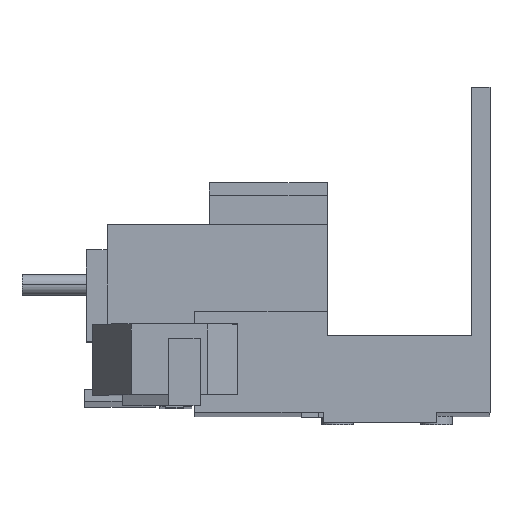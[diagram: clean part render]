
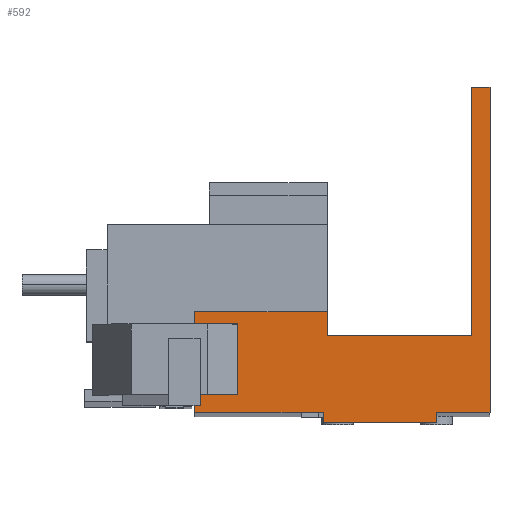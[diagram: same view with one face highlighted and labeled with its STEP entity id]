
A CAD part, front view. The second image highlights one B-rep face of the part: STEP entity #592.
In plain terms, the highlighted planar face has unit normal (0, -1, 0.002).
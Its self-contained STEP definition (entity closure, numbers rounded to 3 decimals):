
#48 = LINE ( 'NONE', #3427, #303 ) ;
#144 = VECTOR ( 'NONE', #3463, 1000. ) ;
#233 = LINE ( 'NONE', #3460, #144 ) ;
#256 = EDGE_LOOP ( 'NONE', ( #3473, #4174, #4127, #4331, #3598, #4145, #4408, #3739, #3999, #3627, #3951, #4155 ) ) ;
#303 = VECTOR ( 'NONE', #3415, 1000. ) ;
#592 = ADVANCED_FACE ( 'NONE', ( #5656 ), #5036, .F. ) ;
#775 = EDGE_CURVE ( 'NONE', #4001, #3832, #48, .T. ) ;
#777 = EDGE_CURVE ( 'NONE', #4156, #4080, #5800, .T. ) ;
#787 = EDGE_CURVE ( 'NONE', #4044, #4156, #233, .T. ) ;
#831 = EDGE_CURVE ( 'NONE', #4061, #3507, #5665, .T. ) ;
#834 = EDGE_CURVE ( 'NONE', #3507, #4044, #5873, .T. ) ;
#835 = EDGE_CURVE ( 'NONE', #3542, #4191, #5649, .T. ) ;
#836 = EDGE_CURVE ( 'NONE', #3744, #3542, #5653, .T. ) ;
#837 = EDGE_CURVE ( 'NONE', #3744, #4030, #5645, .T. ) ;
#1080 = EDGE_CURVE ( 'NONE', #4080, #3965, #4477, .T. ) ;
#1106 = EDGE_CURVE ( 'NONE', #3965, #4191, #4641, .T. ) ;
#1111 = EDGE_CURVE ( 'NONE', #4030, #4001, #4707, .T. ) ;
#1240 = EDGE_CURVE ( 'NONE', #3832, #4061, #3221, .T. ) ;
#1262 = AXIS2_PLACEMENT_3D ( 'NONE', #5029, #5038, #5039 ) ;
#1937 = CARTESIAN_POINT ( 'NONE',  ( -7.5, -33.078, -37.431 ) ) ;
#1938 = CARTESIAN_POINT ( 'NONE',  ( -1.75, -33.053, -25.181 ) ) ;
#1944 = CARTESIAN_POINT ( 'NONE',  ( -2.55, -33.072, -34.474 ) ) ;
#1945 = DIRECTION ( 'NONE',  ( 0., -0.002, -1. ) ) ;
#1949 = CARTESIAN_POINT ( 'NONE',  ( -7.5, -33.078, -37.431 ) ) ;
#1951 = DIRECTION ( 'NONE',  ( -1., 0., 0. ) ) ;
#1952 = CARTESIAN_POINT ( 'NONE',  ( -23.5, -33.078, -37.431 ) ) ;
#1954 = DIRECTION ( 'NONE',  ( 0., 0.002, 1. ) ) ;
#1955 = DIRECTION ( 'NONE',  ( -1., 0., 0. ) ) ;
#1957 = DIRECTION ( 'NONE',  ( 0., 0.002, 1. ) ) ;
#2469 = CARTESIAN_POINT ( 'NONE',  ( -41.6, -33.075, -35.931 ) ) ;
#2481 = DIRECTION ( 'NONE',  ( 0., -0.002, -1. ) ) ;
#2534 = CARTESIAN_POINT ( 'NONE',  ( 0., -33.075, -35.931 ) ) ;
#2540 = CARTESIAN_POINT ( 'NONE',  ( 0., -33.075, -35.931 ) ) ;
#2541 = DIRECTION ( 'NONE',  ( 1., 0., 0. ) ) ;
#2551 = DIRECTION ( 'NONE',  ( 1., 0., 0. ) ) ;
#2855 = CARTESIAN_POINT ( 'NONE',  ( -2.55, -32.98, 9.819 ) ) ;
#2859 = DIRECTION ( 'NONE',  ( -1., 0., 0. ) ) ;
#2912 = CARTESIAN_POINT ( 'NONE',  ( -2.55, -33.053, -25.181 ) ) ;
#2921 = CARTESIAN_POINT ( 'NONE',  ( -23.5, -33.078, -37.431 ) ) ;
#2983 = CARTESIAN_POINT ( 'NONE',  ( -7.5, -33.078, -37.431 ) ) ;
#3011 = CARTESIAN_POINT ( 'NONE',  ( 0., -32.98, 9.819 ) ) ;
#3058 = CARTESIAN_POINT ( 'NONE',  ( -41.6, -33.075, -35.931 ) ) ;
#3060 = CARTESIAN_POINT ( 'NONE',  ( -7.5, -33.075, -35.931 ) ) ;
#3065 = CARTESIAN_POINT ( 'NONE',  ( 0., -33.075, -35.931 ) ) ;
#3069 = CARTESIAN_POINT ( 'NONE',  ( -22.92, -33.053, -25.181 ) ) ;
#3080 = CARTESIAN_POINT ( 'NONE',  ( -41.6, -33.046, -21.831 ) ) ;
#3082 = CARTESIAN_POINT ( 'NONE',  ( -2.55, -32.98, 9.819 ) ) ;
#3099 = CARTESIAN_POINT ( 'NONE',  ( -22.92, -33.046, -21.831 ) ) ;
#3117 = CARTESIAN_POINT ( 'NONE',  ( -23.5, -33.075, -35.931 ) ) ;
#3220 = VECTOR ( 'NONE', #2859, 1000. ) ;
#3221 = LINE ( 'NONE', #2855, #3220 ) ;
#3400 = CARTESIAN_POINT ( 'NONE',  ( -41.6, -33.046, -21.831 ) ) ;
#3415 = DIRECTION ( 'NONE',  ( 0., 0.002, 1. ) ) ;
#3422 = DIRECTION ( 'NONE',  ( -1., 0., 0. ) ) ;
#3427 = CARTESIAN_POINT ( 'NONE',  ( 0., -32.98, 9.819 ) ) ;
#3460 = CARTESIAN_POINT ( 'NONE',  ( -22.92, -33.046, -21.831 ) ) ;
#3463 = DIRECTION ( 'NONE',  ( 0., 0.002, 1. ) ) ;
#3473 = ORIENTED_EDGE ( 'NONE', *, *, #834, .T. ) ;
#3507 = VERTEX_POINT ( 'NONE', #2912 ) ;
#3542 = VERTEX_POINT ( 'NONE', #2921 ) ;
#3598 = ORIENTED_EDGE ( 'NONE', *, *, #1106, .T. ) ;
#3627 = ORIENTED_EDGE ( 'NONE', *, *, #775, .T. ) ;
#3739 = ORIENTED_EDGE ( 'NONE', *, *, #837, .T. ) ;
#3744 = VERTEX_POINT ( 'NONE', #2983 ) ;
#3832 = VERTEX_POINT ( 'NONE', #3011 ) ;
#3951 = ORIENTED_EDGE ( 'NONE', *, *, #1240, .T. ) ;
#3965 = VERTEX_POINT ( 'NONE', #3058 ) ;
#3999 = ORIENTED_EDGE ( 'NONE', *, *, #1111, .T. ) ;
#4001 = VERTEX_POINT ( 'NONE', #3065 ) ;
#4030 = VERTEX_POINT ( 'NONE', #3060 ) ;
#4044 = VERTEX_POINT ( 'NONE', #3069 ) ;
#4061 = VERTEX_POINT ( 'NONE', #3082 ) ;
#4080 = VERTEX_POINT ( 'NONE', #3080 ) ;
#4127 = ORIENTED_EDGE ( 'NONE', *, *, #777, .T. ) ;
#4145 = ORIENTED_EDGE ( 'NONE', *, *, #835, .F. ) ;
#4155 = ORIENTED_EDGE ( 'NONE', *, *, #831, .T. ) ;
#4156 = VERTEX_POINT ( 'NONE', #3099 ) ;
#4174 = ORIENTED_EDGE ( 'NONE', *, *, #787, .T. ) ;
#4191 = VERTEX_POINT ( 'NONE', #3117 ) ;
#4331 = ORIENTED_EDGE ( 'NONE', *, *, #1080, .T. ) ;
#4408 = ORIENTED_EDGE ( 'NONE', *, *, #836, .F. ) ;
#4477 = LINE ( 'NONE', #2469, #4725 ) ;
#4615 = VECTOR ( 'NONE', #2551, 1000. ) ;
#4635 = VECTOR ( 'NONE', #2541, 1000. ) ;
#4641 = LINE ( 'NONE', #2540, #4635 ) ;
#4707 = LINE ( 'NONE', #2534, #4615 ) ;
#4725 = VECTOR ( 'NONE', #2481, 1000. ) ;
#5029 = CARTESIAN_POINT ( 'NONE',  ( 0., -33.075, -35.931 ) ) ;
#5036 = PLANE ( 'NONE',  #1262 ) ;
#5038 = DIRECTION ( 'NONE',  ( 0., 1., -0.002 ) ) ;
#5039 = DIRECTION ( 'NONE',  ( -1., 0., 0. ) ) ;
#5635 = VECTOR ( 'NONE', #1957, 1000. ) ;
#5639 = VECTOR ( 'NONE', #1955, 1000. ) ;
#5643 = VECTOR ( 'NONE', #1954, 1000. ) ;
#5645 = LINE ( 'NONE', #1949, #5635 ) ;
#5647 = VECTOR ( 'NONE', #1951, 1000. ) ;
#5649 = LINE ( 'NONE', #1952, #5643 ) ;
#5653 = LINE ( 'NONE', #1937, #5639 ) ;
#5656 = FACE_OUTER_BOUND ( 'NONE', #256, .T. ) ;
#5659 = VECTOR ( 'NONE', #1945, 1000. ) ;
#5665 = LINE ( 'NONE', #1944, #5659 ) ;
#5681 = VECTOR ( 'NONE', #3422, 1000. ) ;
#5800 = LINE ( 'NONE', #3400, #5681 ) ;
#5873 = LINE ( 'NONE', #1938, #5647 ) ;
